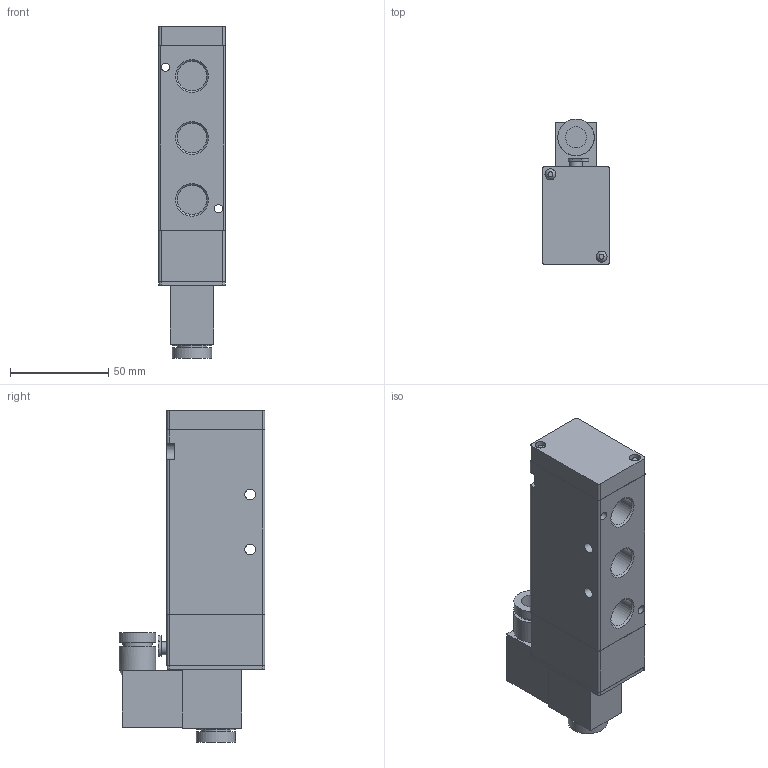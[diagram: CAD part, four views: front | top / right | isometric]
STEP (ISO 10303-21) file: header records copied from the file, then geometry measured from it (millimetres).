
FILE_DESCRIPTION( ( 'STEP AP214' ), '1' );
FILE_NAME( 'C:/Users/emc02044/Desktop/RV五通/RV5241-10E9.stp', '2026-07-31T04:35:02', ( 'License CC BY-ND 4.0' ), ( 'CADENAS' ), ' ', 'PARTsolutions', ' ' );
FILE_SCHEMA( ( 'AUTOMOTIVE_DESIGN { 1 0 10303 214 1 1 1 1 }' ) );
Length unit declared in the file: millimetre
Products named in the file (1): _RV5241-10E9
Bounding box: 34 x 74.3 x 169 mm (x, y, z)
Volume: 249846.9 mm3; surface area: 40670.5 mm2
Topology: 1 solids, 1 shells, 104 faces, 242 edges, 160 vertices
Faces by surface type: plane 55, cylinder 41, cone 6, sphere 2
Full cylindrical faces by diameter (mm): 4.3 x2, 5.5 x2, 5.6 x2, 6.5 x1, 10.8 x1, 14.95 x5, 15 x2, 18.6 x2, 20 x2
Entity records: 3683 total; most frequent: DIRECTION 509, CARTESIAN_POINT 490, ORIENTED_EDGE 420, EDGE_CURVE 210, AXIS2_PLACEMENT_3D 195, EDGE_LOOP 158, VERTEX_POINT 154, FACE_OUTER_BOUND 125
